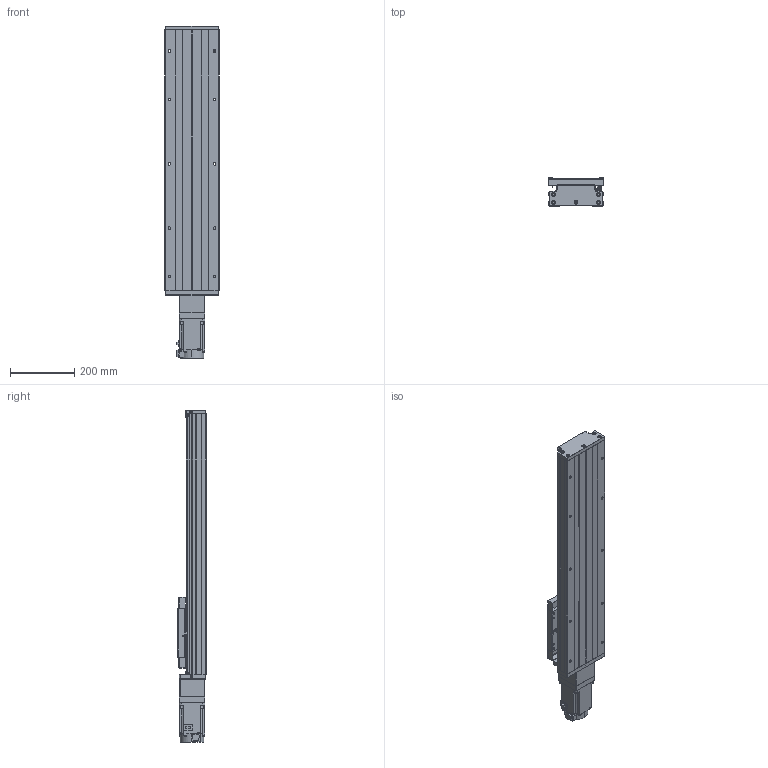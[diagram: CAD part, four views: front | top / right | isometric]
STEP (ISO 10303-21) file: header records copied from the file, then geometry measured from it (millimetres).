
FILE_DESCRIPTION (( 'STEP AP203' ), '1' );
FILE_NAME ('GTH17-550-BC-M75-C4.step', '2023-06-30T11:22:12', ( '微软用户' ), ( '微软中国' ), 'SwSTEP 2.0', 'SolidWorks 2020', '' );
FILE_SCHEMA (( 'CONFIG_CONTROL_DESIGN' ));
Length unit declared in the file: millimetre
Products named in the file (20): GBT 70.3-M3℅8; GTH17-002_GTH17-002; GBT 70.1-M3℅5; GTH17-006-2_M75; GTH17-004; GBT77-2000 M3×3; GTH17-013; GTH17-005; GBT 70.1-M6¡Á20_M6¡Á20; GTH17-027-1; GB1155-6X6; GTH17-031; HG-KN73J-S100; CTHA60-017; GBT 70.2-M3¡Á5_M3¡Á6; GTH17-550-BC-M75-C4; EE_SX911P_R; す晦芛蹟隊 M3℅5; GTH17-001_550; CTHA60-016
Assembly tree (57 placements, depth 2):
  GTH17-550-BC-M75-C4
    GTH17-001_550
    GTH17-002_GTH17-002
    GTH17-004
    GTH17-005
    GB1155-6X6  x2
    CTHA60-017  x3
    EE_SX911P_R  x3
    CTHA60-016  x2
    GBT 70.1-M3℅5  x6
    GBT77-2000 M3×3  x6
    GBT 70.1-M6¡Á20_M6¡Á20  x10
    GTH17-031
    GBT 70.2-M3¡Á5_M3¡Á6  x8
    す晦芛蹟隊 M3℅5  x6
    GBT 70.3-M3℅8  x2
    GTH17-006-2_M75
    GTH17-013
    GTH17-027-1
    HG-KN73J-S100
Bounding box: 171 x 87 x 1031.2 mm (x, y, z)
Volume: 7808693 mm3; surface area: 1037835.4 mm2
Topology: 60 solids, 60 shells, 2404 faces, 5749 edges, 3563 vertices
Faces by surface type: plane 1303, cylinder 654, cone 287, torus 120, sphere 20, bspline 20
Entity records: 44837 total; most frequent: CARTESIAN_POINT 10377, DIRECTION 6477, ORIENTED_EDGE 6414, EDGE_CURVE 3207, AXIS2_PLACEMENT_3D 2197, LINE 2083, VECTOR 2083, VERTEX_POINT 2031
